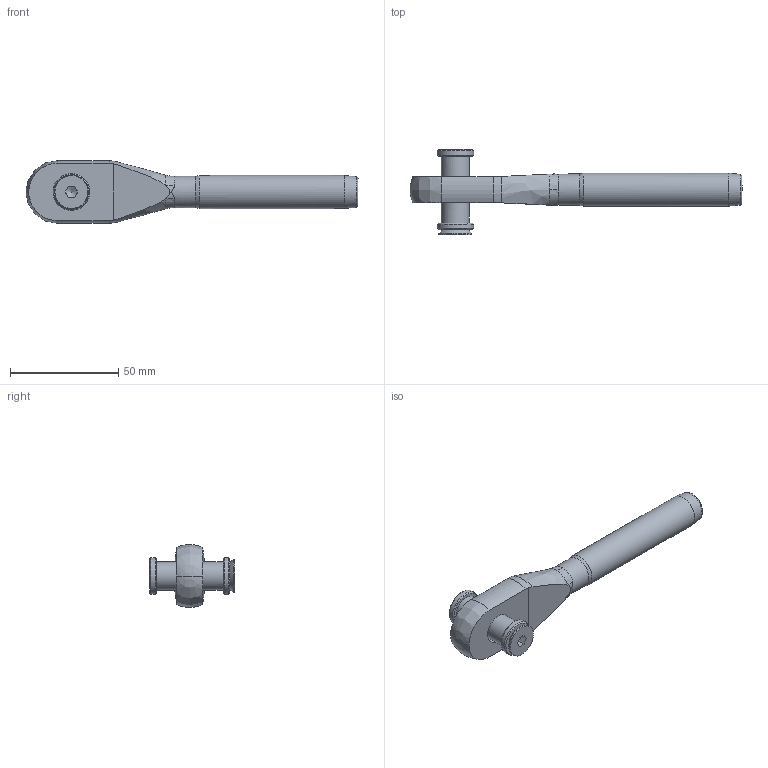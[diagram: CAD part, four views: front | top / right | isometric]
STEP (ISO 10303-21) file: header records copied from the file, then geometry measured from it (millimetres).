
FILE_DESCRIPTION(/* description */ (''),/* implementation_level */ '2;1');
FILE_NAME(/* name */ 'MCC 08_1,4418',/* time_stamp */ '2023-05-23T15:40:30+02:00',/* author */ (''),/* organization */ (''),/* preprocessor_version */ 'ST-DEVELOPER v16.5',/* originating_system */ 'Rhino 7.22',/* authorisation */ '');
FILE_SCHEMA (('CONFIG_CONTROL_DESIGN'));
Length unit declared in the file: millimetre
Products named in the file (1): Document
Bounding box: 153.5 x 39.53 x 29 mm (x, y, z)
Volume: 38927.8 mm3; surface area: 13269.5 mm2
Topology: 6 solids, 6 shells, 74 faces, 203 edges, 135 vertices
Faces by surface type: bspline 31, plane 27, cylinder 16
Full cylindrical faces by diameter (mm): 4.917 x2, 6 x1, 6.5 x2, 8 x1, 11.34 x1, 13 x1, 14 x1, 14.5 x1, 15.24 x1, 15.3 x1, 17 x2
Entity records: 3225 total; most frequent: CARTESIAN_POINT 1970, ORIENTED_EDGE 386, EDGE_CURVE 193, VERTEX_POINT 135, EDGE_LOOP 84, ADVANCED_FACE 74, FACE_OUTER_BOUND 74, B_SPLINE_CURVE_WITH_KNOTS 64
